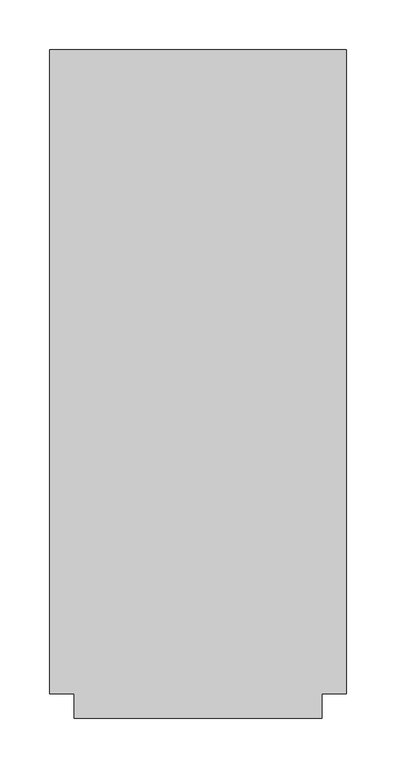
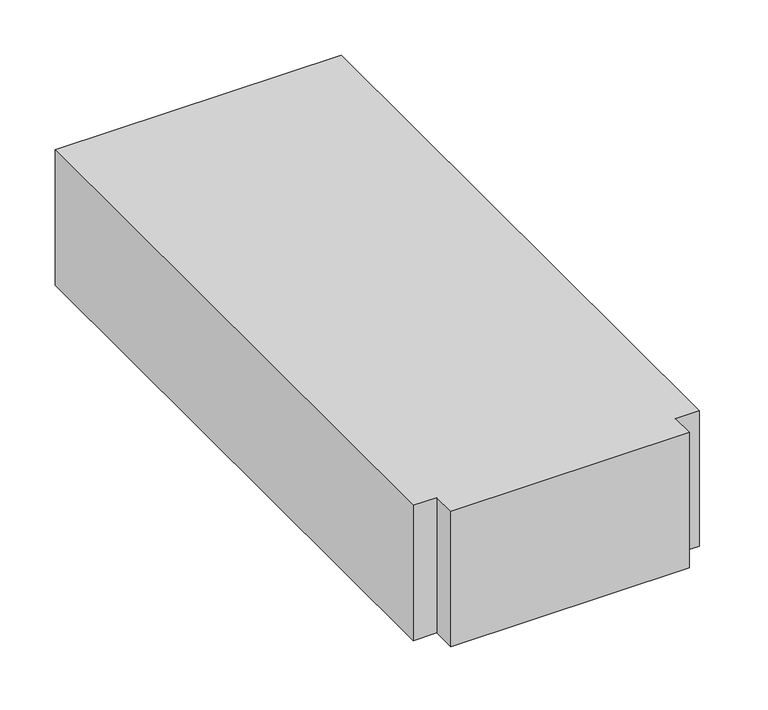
"""IFC4 building model written with IfcOpenShell, lengths in millimetres: duct fitting geometry, M_Te rectangular : Estándar."""

from ifc_helpers import new_model, si_unit, frame, origin, place, context, project, spatial, polyline, outline, extrude, source, transform, mapped, element, save


def duct_fitting_28a2b824(model_context):
    return source(origin(), model_context, "Body", "SweptSolid", [
        extrude(outline(polyline([(-150.0, -325.0), (-150.0, 325.0), (150.0, 325.0), (150.0, -325.0), (125.0, -325.0), (125.0, -350.0), (-125.0, -350.0), (-125.0, -325.0), (-150.0, -325.0)])), frame((0.0, 0.0, -75.0), z_axis=(0.0, 0.0, 1.0), x_axis=(1.0, 0.0, 0.0)), (0.0, 0.0, 1.0), 150.0),
    ])


if __name__ == "__main__":
    model = new_model("IFC4")
    model_context = context("Model", 3, world=origin())
    ifc_project = project(units=[si_unit("LENGTHUNIT", "METRE", prefix="MILLI")], contexts=[model_context])
    site = spatial("IfcSite", under=ifc_project)
    building = spatial("IfcBuilding", under=site)
    placement = place(None, origin())
    duct_fitting_shape = duct_fitting_28a2b824(model_context)
    element("IfcDuctFitting", 1, ObjectType="M_Te rectangular : Estándar", at=placement, inside=building, context=model_context, shape_type="MappedRepresentation", body=[
        mapped(duct_fitting_shape, transform((0.0, 0.0, 0.0), x_axis=(1.0, 0.0, 0.0), y_axis=(0.0, 1.0, 0.0), z_axis=(0.0, 0.0, 1.0))),
    ])
    save(model, "model.ifc")
